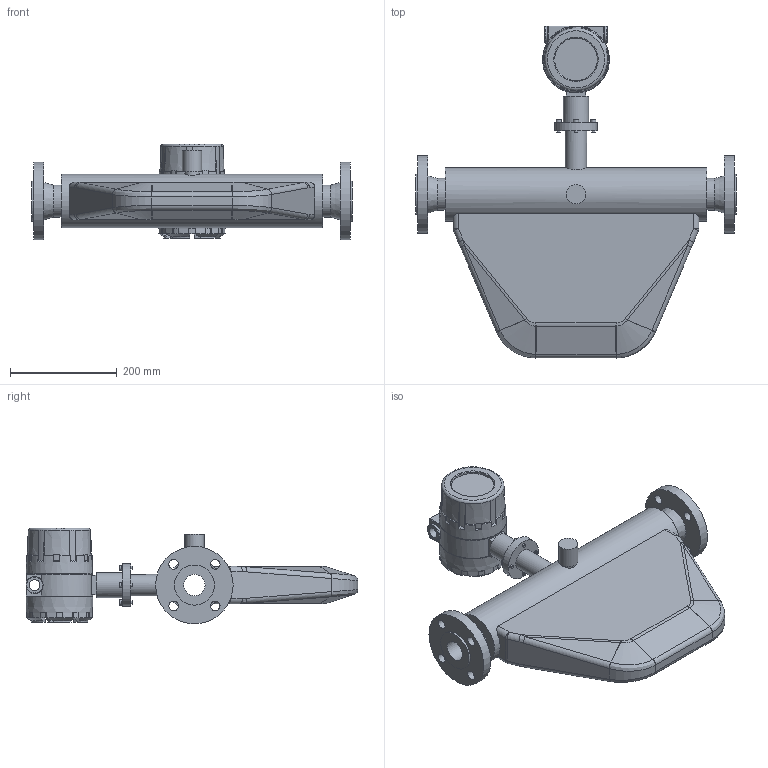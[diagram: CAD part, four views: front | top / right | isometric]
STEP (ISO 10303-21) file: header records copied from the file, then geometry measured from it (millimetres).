
FILE_DESCRIPTION(('STEP AP203'), '1');
FILE_NAME('Äó 40 - 4 ÌÏà - 100 Ñ', '', ('UNSPECIFIED'), ('UNSPECIFIED'), 'ASCON STEP Converter 1.6', 'ASCON Math Kernel', '');
FILE_SCHEMA(('CONFIG_CONTROL_DESIGN'));
Length unit declared in the file: millimetre
Products named in the file (1): 栖闉罻1
Bounding box: 600 x 621 x 179 mm (x, y, z)
Volume: 12319211.7 mm3; surface area: 666774.2 mm2
Topology: 1 solids, 1 shells, 431 faces, 1063 edges, 631 vertices
Faces by surface type: plane 195, cylinder 104, bspline 62, cone 52, sphere 12, torus 6
Full cylindrical faces by diameter (mm): 6.35 x4, 9.525 x4, 18 x8, 20 x1, 27 x1, 32 x2, 36 x1, 40 x2, 47 x1, 60 x2, 75 x2, 80 x2, 100 x1, 145 x2
Entity records: 21296 total; most frequent: CARTESIAN_POINT 8621, ORIENTED_EDGE 1954, DIRECTION 1768, EDGE_CURVE 977, AXIS2_PLACEMENT_3D 696, VERTEX_POINT 625, EDGE_LOOP 524, FACE_BOUND 451
